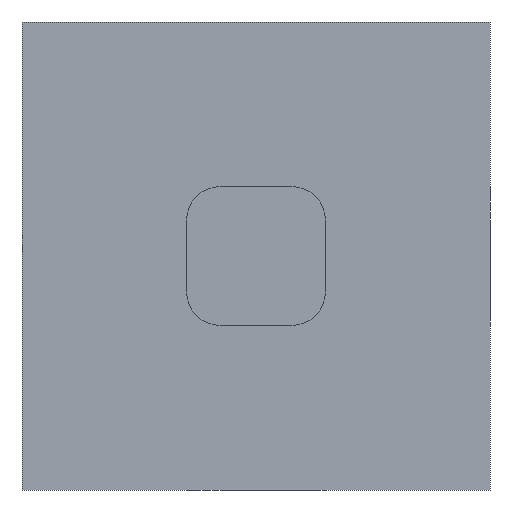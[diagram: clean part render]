
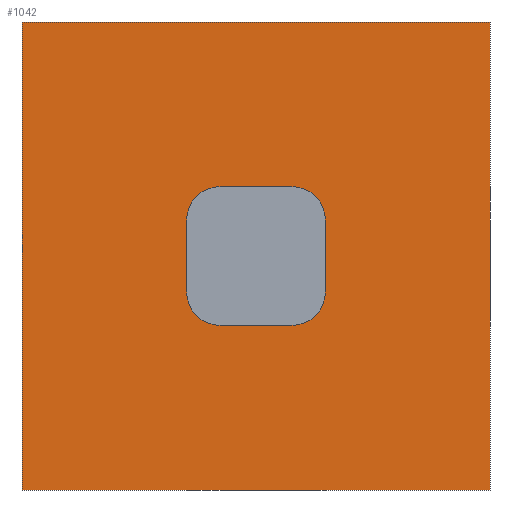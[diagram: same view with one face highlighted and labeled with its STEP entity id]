
A CAD part, left-side view. The second image highlights one B-rep face of the part: STEP entity #1042.
In plain terms, the highlighted planar face has unit normal (-1, 0, 0).
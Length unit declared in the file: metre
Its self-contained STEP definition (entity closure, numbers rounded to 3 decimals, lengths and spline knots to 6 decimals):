
#49=LINE('',#1592,#157);
#51=LINE('',#1596,#159);
#52=LINE('',#1601,#160);
#53=LINE('',#1605,#161);
#54=LINE('',#1609,#162);
#55=LINE('',#1612,#163);
#56=LINE('',#1614,#164);
#57=LINE('',#1616,#165);
#157=VECTOR('',#1256,1.);
#159=VECTOR('',#1260,1.);
#160=VECTOR('',#1263,1.);
#161=VECTOR('',#1266,1.);
#162=VECTOR('',#1269,1.);
#163=VECTOR('',#1272,1.);
#164=VECTOR('',#1273,1.);
#165=VECTOR('',#1274,1.);
#276=ORIENTED_EDGE('',*,*,#587,.T.);
#277=ORIENTED_EDGE('',*,*,#588,.T.);
#278=ORIENTED_EDGE('',*,*,#589,.T.);
#279=ORIENTED_EDGE('',*,*,#590,.T.);
#280=ORIENTED_EDGE('',*,*,#591,.F.);
#281=ORIENTED_EDGE('',*,*,#592,.T.);
#282=ORIENTED_EDGE('',*,*,#593,.F.);
#283=ORIENTED_EDGE('',*,*,#594,.T.);
#284=ORIENTED_EDGE('',*,*,#595,.T.);
#285=ORIENTED_EDGE('',*,*,#596,.F.);
#286=ORIENTED_EDGE('',*,*,#597,.F.);
#287=ORIENTED_EDGE('',*,*,#585,.T.);
#585=EDGE_CURVE('',#741,#740,#49,.T.);
#587=EDGE_CURVE('',#742,#743,#51,.T.);
#588=EDGE_CURVE('',#743,#744,#832,.T.);
#589=EDGE_CURVE('',#744,#745,#52,.T.);
#590=EDGE_CURVE('',#745,#746,#833,.T.);
#591=EDGE_CURVE('',#747,#746,#53,.T.);
#592=EDGE_CURVE('',#747,#748,#834,.T.);
#593=EDGE_CURVE('',#749,#748,#54,.T.);
#594=EDGE_CURVE('',#749,#742,#835,.T.);
#595=EDGE_CURVE('',#740,#750,#55,.T.);
#596=EDGE_CURVE('',#751,#750,#56,.T.);
#597=EDGE_CURVE('',#741,#751,#57,.T.);
#740=VERTEX_POINT('',#1591);
#741=VERTEX_POINT('',#1593);
#742=VERTEX_POINT('',#1597);
#743=VERTEX_POINT('',#1598);
#744=VERTEX_POINT('',#1600);
#745=VERTEX_POINT('',#1602);
#746=VERTEX_POINT('',#1604);
#747=VERTEX_POINT('',#1606);
#748=VERTEX_POINT('',#1608);
#749=VERTEX_POINT('',#1610);
#750=VERTEX_POINT('',#1613);
#751=VERTEX_POINT('',#1615);
#832=CIRCLE('',#1124,0.004);
#833=CIRCLE('',#1125,0.004);
#834=CIRCLE('',#1126,0.004);
#835=CIRCLE('',#1127,0.004);
#876=EDGE_LOOP('',(#276,#277,#278,#279,#280,#281,#282,#283));
#877=EDGE_LOOP('',(#284,#285,#286,#287));
#942=FACE_BOUND('',#876,.T.);
#943=FACE_BOUND('',#877,.T.);
#1006=PLANE('',#1123);
#1042=ADVANCED_FACE('',(#942,#943),#1006,.F.);
#1123=AXIS2_PLACEMENT_3D('',#1595,#1258,#1259);
#1124=AXIS2_PLACEMENT_3D('',#1599,#1261,#1262);
#1125=AXIS2_PLACEMENT_3D('',#1603,#1264,#1265);
#1126=AXIS2_PLACEMENT_3D('',#1607,#1267,#1268);
#1127=AXIS2_PLACEMENT_3D('',#1611,#1270,#1271);
#1256=DIRECTION('',(0.,0.,-1.));
#1258=DIRECTION('',(1.,0.,0.));
#1259=DIRECTION('',(0.,1.,0.));
#1260=DIRECTION('',(0.,-1.,0.));
#1261=DIRECTION('',(1.,0.,0.));
#1262=DIRECTION('',(0.,1.,0.));
#1263=DIRECTION('',(0.,0.,-1.));
#1264=DIRECTION('',(1.,0.,0.));
#1265=DIRECTION('',(0.,1.,0.));
#1266=DIRECTION('',(0.,-1.,0.));
#1267=DIRECTION('',(1.,0.,0.));
#1268=DIRECTION('',(0.,1.,0.));
#1269=DIRECTION('',(0.,0.,-1.));
#1270=DIRECTION('',(1.,0.,0.));
#1271=DIRECTION('',(0.,1.,0.));
#1272=DIRECTION('',(0.,-1.,0.));
#1273=DIRECTION('',(0.,0.,-1.));
#1274=DIRECTION('',(0.,-1.,0.));
#1591=CARTESIAN_POINT('',(-0.028,0.028,-0.028));
#1592=CARTESIAN_POINT('',(-0.028,0.028,0.028));
#1593=CARTESIAN_POINT('',(-0.028,0.028,0.028));
#1595=CARTESIAN_POINT('',(-0.028,0.,0.028));
#1596=CARTESIAN_POINT('',(-0.028,0.,0.0083));
#1597=CARTESIAN_POINT('',(-0.028,0.0043,0.0083));
#1598=CARTESIAN_POINT('',(-0.028,-0.0043,0.0083));
#1599=CARTESIAN_POINT('',(-0.028,-0.0043,0.0043));
#1600=CARTESIAN_POINT('',(-0.028,-0.0083,0.0043));
#1601=CARTESIAN_POINT('',(-0.028,-0.0083,0.));
#1602=CARTESIAN_POINT('',(-0.028,-0.0083,-0.0043));
#1603=CARTESIAN_POINT('',(-0.028,-0.0043,-0.0043));
#1604=CARTESIAN_POINT('',(-0.028,-0.0043,-0.0083));
#1605=CARTESIAN_POINT('',(-0.028,0.,-0.0083));
#1606=CARTESIAN_POINT('',(-0.028,0.0043,-0.0083));
#1607=CARTESIAN_POINT('',(-0.028,0.0043,-0.0043));
#1608=CARTESIAN_POINT('',(-0.028,0.0083,-0.0043));
#1609=CARTESIAN_POINT('',(-0.028,0.0083,0.));
#1610=CARTESIAN_POINT('',(-0.028,0.0083,0.0043));
#1611=CARTESIAN_POINT('',(-0.028,0.0043,0.0043));
#1612=CARTESIAN_POINT('',(-0.028,0.,-0.028));
#1613=CARTESIAN_POINT('',(-0.028,-0.028,-0.028));
#1614=CARTESIAN_POINT('',(-0.028,-0.028,0.028));
#1615=CARTESIAN_POINT('',(-0.028,-0.028,0.028));
#1616=CARTESIAN_POINT('',(-0.028,0.,0.028));
